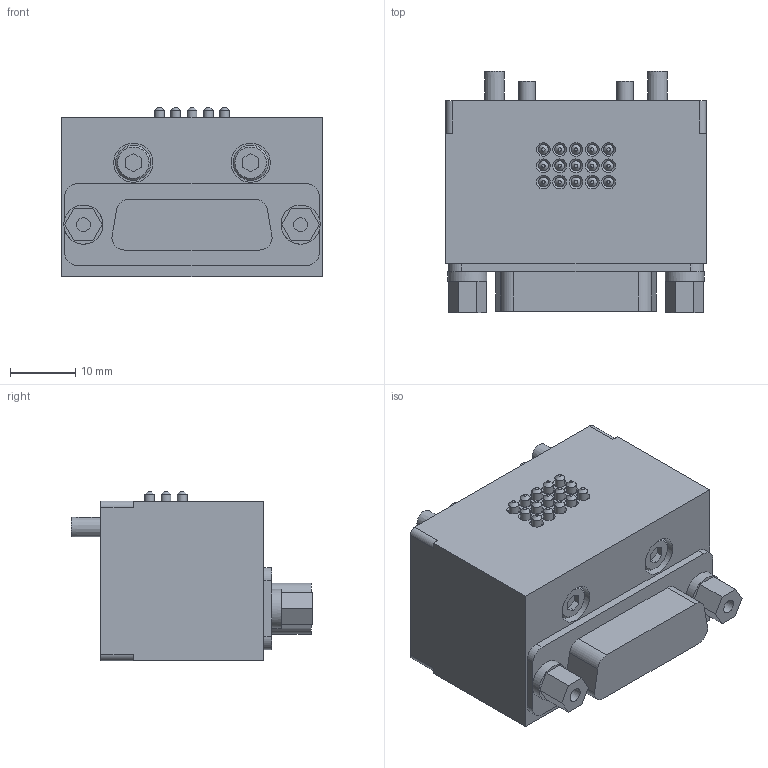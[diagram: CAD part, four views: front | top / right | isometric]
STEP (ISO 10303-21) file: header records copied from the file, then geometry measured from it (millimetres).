
FILE_DESCRIPTION(('STEP AP214'),'1');
FILE_NAME('KHB-7_25HS-D315C_ver1.stp','2026-04-27T02:19:39',(' '),(' '),'Spatial InterOp 3D',' ',' ');
FILE_SCHEMA(('AUTOMOTIVE_DESIGN { 1 0 10303 214 1 1 1 1 }'));
Length unit declared in the file: millimetre
Products named in the file (3): KHB-7~25HS-D315C_ver1; パーツ1
Assembly tree (2 placements, depth 2):
  KHB-7~25HS-D315C_ver1
    パーツ1
    パーツ1
Bounding box: 40 x 37 x 26 mm (x, y, z)
Volume: 26187.1 mm3; surface area: 7976.2 mm2
Topology: 2 solids, 13 shells, 307 faces, 676 edges, 442 vertices
Faces by surface type: plane 191, cylinder 74, cone 42
Full cylindrical faces by diameter (mm): 1.5 x15, 2 x2, 2.15 x6, 2.5 x5, 3 x4, 3.05 x2, 3.2 x2, 3.3 x2, 3.5 x2, 5.41 x4, 5.5 x2, 5.8 x2, 6 x4
Entity records: 10156 total; most frequent: DIRECTION 1358, CARTESIAN_POINT 1298, ORIENTED_EDGE 1088, EDGE_CURVE 544, AXIS2_PLACEMENT_3D 506, EDGE_LOOP 456, VERTEX_POINT 404, FACE_OUTER_BOUND 359
